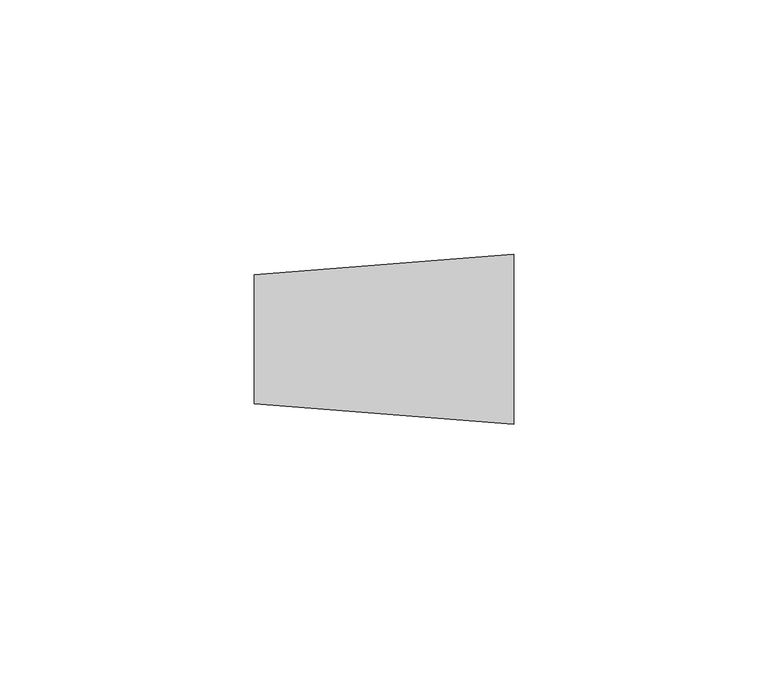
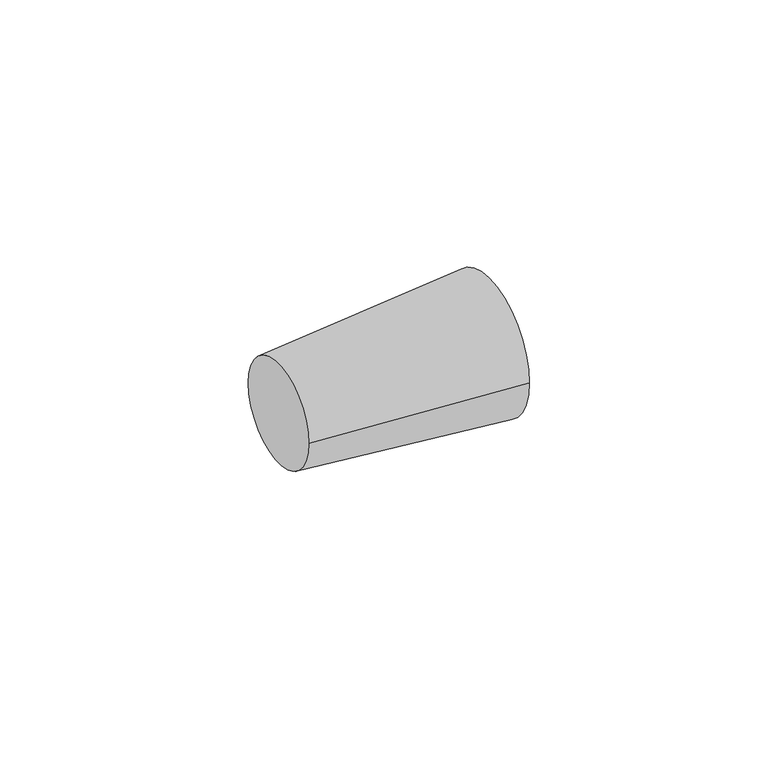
"""IFC4 building model written with IfcOpenShell, lengths in millimetres: pipe fitting geometry, 过渡件 - 常规 : 标准."""

from ifc_helpers import new_model, si_unit, frame, origin, place, context, project, spatial, polyline, circle_curve, source, transform, mapped, element, save
from ifc_brep_helpers import plane_surface, revolved_surface, advanced_brep


def pipe_fitting_cd75d731(model_context):
    return source(origin(), model_context, "Body", "AdvancedBrep", [
        advanced_brep(
        [(51.0, -16.7, 0.0), (51.0, 16.7, 0.0), (0.0, -12.7089844, 0.0), (0.0, 12.7089844, 0.0)],
        [
            (0, 1, circle_curve(frame((51.0, 0.0, 0.0), z_axis=(1.0, 0.0, 0.0), x_axis=(0.0, -1.0, 0.0)), 16.7)),
            (1, 0, circle_curve(frame((51.0, 0.0, 0.0), z_axis=(1.0, 0.0, 0.0), x_axis=(0.0, 1.0, 0.0)), 16.7)),
            (2, 3, circle_curve(frame((0.0, 0.0, 0.0), z_axis=(-1.0, 0.0, 0.0), x_axis=(0.0, 1.0, 0.0)), 12.7089844)),
            (3, 2, circle_curve(frame((0.0, 0.0, 0.0), z_axis=(-1.0, 0.0, 0.0), x_axis=(0.0, -1.0, 0.0)), 12.7089844)),
            (3, 1),
            (0, 2),
        ],
        [
            plane_surface(frame((51.0, 0.0, 0.0), z_axis=(1.0, 0.0, 0.0), x_axis=(0.0, 0.0, -1.0))),
            plane_surface(frame((0.0, 0.0, 0.0), z_axis=(-1.0, 0.0, 0.0), x_axis=(0.0, 0.0, -1.0))),
            revolved_surface(polyline([(0.0, 12.708984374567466, 0.0), (51.0, 16.7, 0.0)]), (-162.4043261, 0.0, 0.0), (1.0, 0.0, 0.0)),
            revolved_surface(polyline([(0.0, -12.708984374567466, 0.0), (51.0, -16.7, 0.0)]), (-162.4043261, 0.0, 0.0), (1.0, 0.0, 0.0)),
        ],
        [
            (0, [[1, 2]]),
            (1, [[3, 4]]),
            (2, [[-4, 5, -1, 6]]),
            (3, [[-3, -6, -2, -5]]),
        ],
    ),
    ])


if __name__ == "__main__":
    model = new_model("IFC4")
    model_context = context("Model", 3, world=origin())
    ifc_project = project(units=[si_unit("LENGTHUNIT", "METRE", prefix="MILLI")], contexts=[model_context])
    site = spatial("IfcSite", under=ifc_project)
    building = spatial("IfcBuilding", under=site)
    placement = place(None, origin())
    pipe_fitting_shape = pipe_fitting_cd75d731(model_context)
    element("IfcPipeFitting", 1, ObjectType="过渡件 - 常规 : 标准", at=placement, inside=building, context=model_context, shape_type="MappedRepresentation", body=[
        mapped(pipe_fitting_shape, transform((0.0, 0.0, 0.0), x_axis=(1.0, 0.0, 0.0), y_axis=(0.0, 1.0, 0.0), z_axis=(0.0, 0.0, 1.0))),
    ])
    save(model, "model.ifc")
